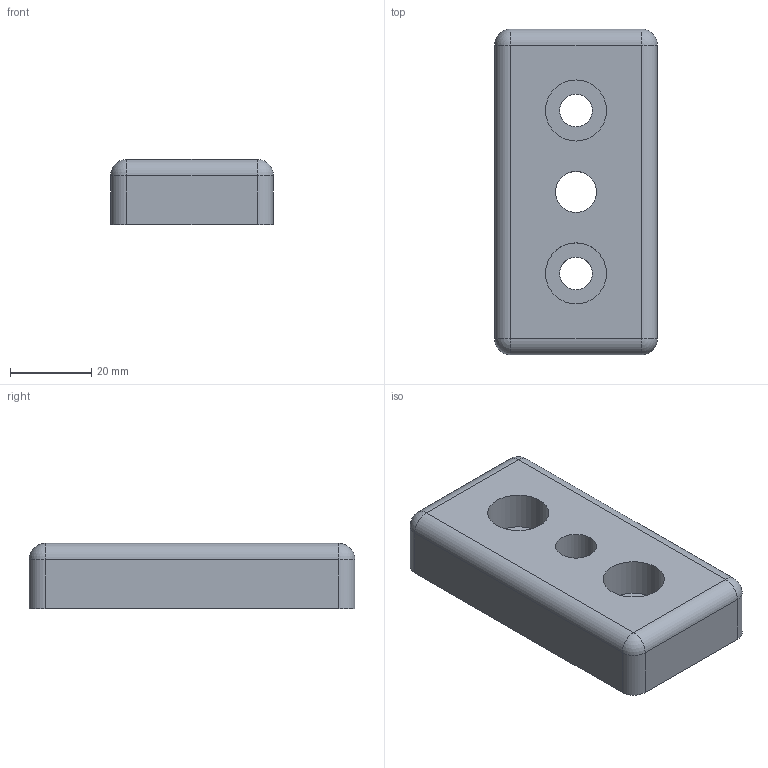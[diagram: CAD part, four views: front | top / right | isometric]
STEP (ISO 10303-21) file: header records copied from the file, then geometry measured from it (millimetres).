
FILE_DESCRIPTION(/* description */ ('STEP AP214'),/* implementation_level */ '2;1');
FILE_NAME(/* name */ 'Transport and Base Plate GN 80i-40808M12-A-ZS',/* time_stamp */ '2024-08-28T12:25:54+02:00',/* author */ ('License CC BY-ND 4.0'),/* organization */ ('CADENAS'),/* preprocessor_version */ 'ST-DEVELOPER v19.3',/* originating_system */ 'PARTsolutions',/* authorisation */ ' ');
FILE_SCHEMA (('AUTOMOTIVE_DESIGN {1 0 10303 214 3 1 1}'));
Length unit declared in the file: millimetre
Products named in the file (1): Transport and Base Plate GN 80i-40808M12-A-ZS
Bounding box: 40 x 80 x 16 mm (x, y, z)
Volume: 44904.6 mm3; surface area: 11063.9 mm2
Topology: 1 solids, 1 shells, 25 faces, 55 edges, 30 vertices
Faces by surface type: cylinder 13, plane 8, sphere 4
Full cylindrical faces by diameter (mm): 8 x2, 10.106 x1, 15 x2
Entity records: 672 total; most frequent: DIRECTION 124, CARTESIAN_POINT 102, ORIENTED_EDGE 92, AXIS2_PLACEMENT_3D 52, EDGE_CURVE 46, EDGE_LOOP 38, FACE_BOUND 38, VERTEX_POINT 30
